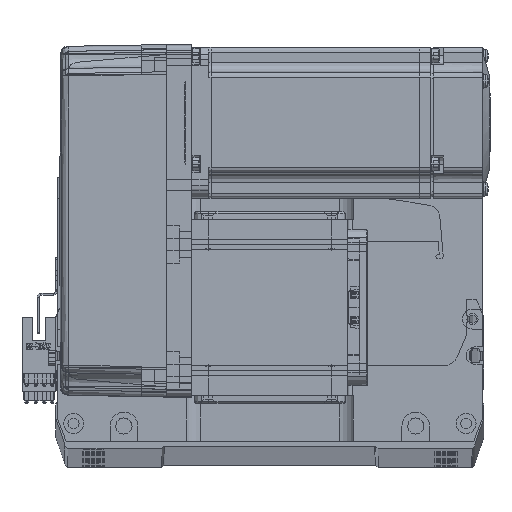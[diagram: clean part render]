
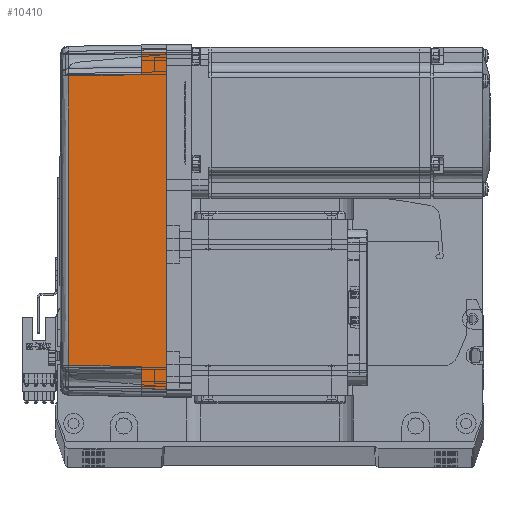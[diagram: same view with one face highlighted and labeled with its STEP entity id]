
A CAD part, top view. The second image highlights one B-rep face of the part: STEP entity #10410.
In plain terms, the highlighted planar face has unit normal (-0.018, 0, 1) as drawn and (0, 1, 0.017) by its records, which use the part's own axes.
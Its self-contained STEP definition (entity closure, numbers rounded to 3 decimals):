
#937 = CARTESIAN_POINT ( 'NONE',  ( 57.495, 35.32, 38.985 ) ) ;
#3297 = VERTEX_POINT ( 'NONE', #37571 ) ;
#6375 = FACE_OUTER_BOUND ( 'NONE', #42413, .T. ) ;
#6685 = ORIENTED_EDGE ( 'NONE', *, *, #11384, .T. ) ;
#7615 = VERTEX_POINT ( 'NONE', #36738 ) ;
#10410 = ADVANCED_FACE ( 'NONE', ( #6375 ), #36533, .T. ) ;
#11093 = AXIS2_PLACEMENT_3D ( 'NONE', #71735, #42918, #65622 ) ;
#11384 = EDGE_CURVE ( 'NONE', #14115, #29919, #40061, .T. ) ;
#12136 = VECTOR ( 'NONE', #29483, 1000. ) ;
#14115 = VERTEX_POINT ( 'NONE', #937 ) ;
#15305 = VECTOR ( 'NONE', #51093, 1000. ) ;
#16326 = ORIENTED_EDGE ( 'NONE', *, *, #57969, .T. ) ;
#17277 = LINE ( 'NONE', #64517, #65641 ) ;
#17901 = EDGE_CURVE ( 'NONE', #29919, #49790, #52579, .T. ) ;
#19538 = LINE ( 'NONE', #29121, #40549 ) ;
#19666 = EDGE_CURVE ( 'NONE', #3297, #64162, #26679, .T. ) ;
#21104 = VERTEX_POINT ( 'NONE', #42314 ) ;
#21424 = CARTESIAN_POINT ( 'NONE',  ( -19.165, 35.316, 39.181 ) ) ;
#21594 = CARTESIAN_POINT ( 'NONE',  ( 70., 35.825, 10. ) ) ;
#25421 = ORIENTED_EDGE ( 'NONE', *, *, #65161, .T. ) ;
#26679 = LINE ( 'NONE', #64507, #12136 ) ;
#27743 = CARTESIAN_POINT ( 'NONE',  ( 57.495, 35.32, 38.985 ) ) ;
#28115 = DIRECTION ( 'NONE',  ( 0.017, -0.017, 1. ) ) ;
#29121 = CARTESIAN_POINT ( 'NONE',  ( -58., 35.825, 10. ) ) ;
#29483 = DIRECTION ( 'NONE',  ( 1., 0., 0. ) ) ;
#29919 = VERTEX_POINT ( 'NONE', #59310 ) ;
#30962 = ORIENTED_EDGE ( 'NONE', *, *, #17901, .T. ) ;
#35824 = EDGE_CURVE ( 'NONE', #74966, #14115, #54010, .T. ) ;
#36533 = PLANE ( 'NONE',  #11093 ) ;
#36738 = CARTESIAN_POINT ( 'NONE',  ( -58., 35.825, 10. ) ) ;
#37571 = CARTESIAN_POINT ( 'NONE',  ( -67., 36., 0. ) ) ;
#39949 = DIRECTION ( 'NONE',  ( 1., 0., 0. ) ) ;
#40061 = LINE ( 'NONE', #71871, #72017 ) ;
#40549 = VECTOR ( 'NONE', #28115, 1000. ) ;
#40837 = LINE ( 'NONE', #51607, #15305 ) ;
#41408 = VECTOR ( 'NONE', #39949, 1000. ) ;
#42314 = CARTESIAN_POINT ( 'NONE',  ( -66.826, 35.825, 10. ) ) ;
#42413 = EDGE_LOOP ( 'NONE', ( #43102, #25421, #16326, #64475, #6685, #30962, #70217, #54548 ) ) ;
#42918 = DIRECTION ( 'NONE',  ( 0., 1., 0.017 ) ) ;
#43102 = ORIENTED_EDGE ( 'NONE', *, *, #45103, .T. ) ;
#45103 = EDGE_CURVE ( 'NONE', #3297, #21104, #17277, .T. ) ;
#45970 = EDGE_CURVE ( 'NONE', #64162, #49790, #40837, .T. ) ;
#47792 = CARTESIAN_POINT ( 'NONE',  ( 67., 36., 0. ) ) ;
#48369 = CARTESIAN_POINT ( 'NONE',  ( -57.495, 35.32, 38.985 ) ) ;
#49790 = VERTEX_POINT ( 'NONE', #74170 ) ;
#51093 = DIRECTION ( 'NONE',  ( -0.017, -0.017, 1. ) ) ;
#51607 = CARTESIAN_POINT ( 'NONE',  ( 67.001, 36.001, -0.052 ) ) ;
#52579 = LINE ( 'NONE', #69396, #65317 ) ;
#54010 = B_SPLINE_CURVE_WITH_KNOTS ( 'NONE', 3,
 ( #56411, #21424, #68552, #27743 ),
 .UNSPECIFIED., .F., .F.,
 ( 4, 4 ),
 ( 0., 1. ),
 .UNSPECIFIED. ) ;
#54548 = ORIENTED_EDGE ( 'NONE', *, *, #19666, .F. ) ;
#56411 = CARTESIAN_POINT ( 'NONE',  ( -57.495, 35.32, 38.985 ) ) ;
#57249 = DIRECTION ( 'NONE',  ( 1., 0., 0. ) ) ;
#57969 = EDGE_CURVE ( 'NONE', #7615, #74966, #19538, .T. ) ;
#58796 = LINE ( 'NONE', #21594, #41408 ) ;
#59310 = CARTESIAN_POINT ( 'NONE',  ( 58., 35.825, 10. ) ) ;
#59429 = DIRECTION ( 'NONE',  ( 0.017, -0.017, 1. ) ) ;
#60450 = DIRECTION ( 'NONE',  ( 0.017, 0.017, -1. ) ) ;
#64162 = VERTEX_POINT ( 'NONE', #47792 ) ;
#64475 = ORIENTED_EDGE ( 'NONE', *, *, #35824, .T. ) ;
#64507 = CARTESIAN_POINT ( 'NONE',  ( 0., 36., 0. ) ) ;
#64517 = CARTESIAN_POINT ( 'NONE',  ( -67., 36., 0. ) ) ;
#65161 = EDGE_CURVE ( 'NONE', #21104, #7615, #58796, .T. ) ;
#65317 = VECTOR ( 'NONE', #57249, 1000. ) ;
#65622 = DIRECTION ( 'NONE',  ( 0., -0.017, 1. ) ) ;
#65641 = VECTOR ( 'NONE', #59429, 1000. ) ;
#68552 = CARTESIAN_POINT ( 'NONE',  ( 19.165, 35.316, 39.181 ) ) ;
#69396 = CARTESIAN_POINT ( 'NONE',  ( 70., 35.825, 10. ) ) ;
#70217 = ORIENTED_EDGE ( 'NONE', *, *, #45970, .F. ) ;
#71735 = CARTESIAN_POINT ( 'NONE',  ( 70., 36., 0. ) ) ;
#71871 = CARTESIAN_POINT ( 'NONE',  ( 57.495, 35.32, 38.985 ) ) ;
#72017 = VECTOR ( 'NONE', #60450, 1000. ) ;
#74170 = CARTESIAN_POINT ( 'NONE',  ( 66.826, 35.825, 10. ) ) ;
#74966 = VERTEX_POINT ( 'NONE', #48369 ) ;
